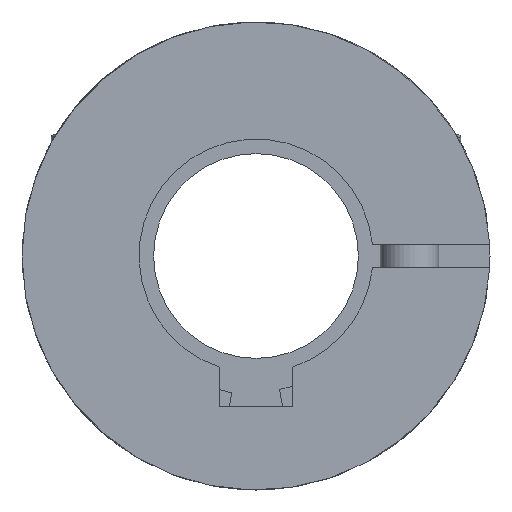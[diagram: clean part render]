
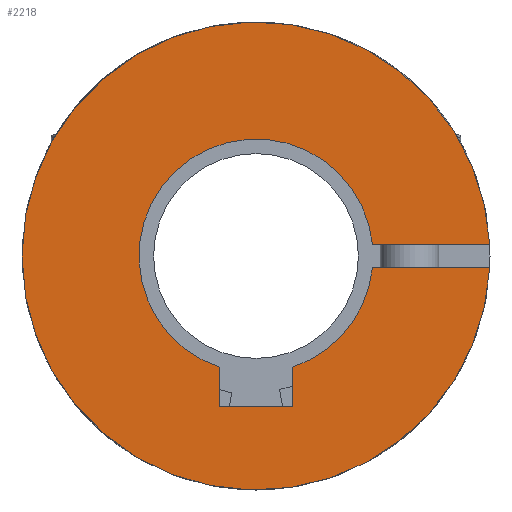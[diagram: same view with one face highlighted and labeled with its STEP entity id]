
A CAD part, left-side view. The second image highlights one B-rep face of the part: STEP entity #2218.
In plain terms, the highlighted planar face has unit normal (-1, 0, 0).
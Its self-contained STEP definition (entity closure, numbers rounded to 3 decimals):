
#58=PLANE('',#2457);
#164=FACE_OUTER_BOUND('',#288,.T.);
#288=EDGE_LOOP('',(#1608,#1609,#1610,#1611,#1612,#1613,#1614,#1615));
#420=LINE('',#3490,#629);
#423=LINE('',#3496,#632);
#424=LINE('',#3498,#633);
#428=LINE('',#3506,#637);
#442=LINE('',#3580,#651);
#629=VECTOR('',#2700,1.);
#632=VECTOR('',#2705,1.);
#633=VECTOR('',#2708,1.);
#637=VECTOR('',#2718,1000.);
#651=VECTOR('',#2800,1000.);
#821=CIRCLE('',#2402,16.);
#829=CIRCLE('',#2411,8.);
#833=CIRCLE('',#2417,8.);
#937=VERTEX_POINT('',#3343);
#938=VERTEX_POINT('',#3344);
#957=VERTEX_POINT('',#3460);
#958=VERTEX_POINT('',#3461);
#966=VERTEX_POINT('',#3479);
#968=VERTEX_POINT('',#3483);
#969=VERTEX_POINT('',#3488);
#971=VERTEX_POINT('',#3494);
#1165=EDGE_CURVE('',#937,#938,#821,.T.);
#1185=EDGE_CURVE('',#957,#958,#829,.T.);
#1196=EDGE_CURVE('',#966,#968,#833,.T.);
#1199=EDGE_CURVE('',#968,#969,#420,.T.);
#1202=EDGE_CURVE('',#969,#971,#423,.T.);
#1203=EDGE_CURVE('',#971,#957,#424,.T.);
#1208=EDGE_CURVE('',#966,#938,#428,.T.);
#1245=EDGE_CURVE('',#937,#958,#442,.T.);
#1608=ORIENTED_EDGE('',*,*,#1185,.T.);
#1609=ORIENTED_EDGE('',*,*,#1245,.F.);
#1610=ORIENTED_EDGE('',*,*,#1165,.T.);
#1611=ORIENTED_EDGE('',*,*,#1208,.F.);
#1612=ORIENTED_EDGE('',*,*,#1196,.T.);
#1613=ORIENTED_EDGE('',*,*,#1199,.T.);
#1614=ORIENTED_EDGE('',*,*,#1202,.T.);
#1615=ORIENTED_EDGE('',*,*,#1203,.T.);
#2218=ADVANCED_FACE('',(#164),#58,.F.);
#2402=AXIS2_PLACEMENT_3D('',#3345,#2649,#2650);
#2411=AXIS2_PLACEMENT_3D('',#3462,#2675,#2676);
#2417=AXIS2_PLACEMENT_3D('',#3485,#2694,#2695);
#2457=AXIS2_PLACEMENT_3D('',#3579,#2798,#2799);
#2649=DIRECTION('center_axis',(-1.,0.,0.));
#2650=DIRECTION('ref_axis',(0.,-1.,0.));
#2675=DIRECTION('center_axis',(1.,0.,0.));
#2676=DIRECTION('ref_axis',(0.,0.,-1.));
#2694=DIRECTION('center_axis',(1.,0.,0.));
#2695=DIRECTION('ref_axis',(0.,0.,-1.));
#2700=DIRECTION('',(0.,0.,-1.));
#2705=DIRECTION('',(0.,1.,0.));
#2708=DIRECTION('',(0.,0.,1.));
#2718=DIRECTION('',(0.,-1.,0.));
#2798=DIRECTION('center_axis',(1.,0.,0.));
#2799=DIRECTION('ref_axis',(0.,0.,1.));
#2800=DIRECTION('',(0.,1.,0.));
#3343=CARTESIAN_POINT('',(0.,-15.98,0.8));
#3344=CARTESIAN_POINT('',(0.,-15.98,-0.8));
#3345=CARTESIAN_POINT('Origin',(0.,0.,0.));
#3460=CARTESIAN_POINT('',(0.,2.5,-7.599));
#3461=CARTESIAN_POINT('',(0.,-7.96,0.8));
#3462=CARTESIAN_POINT('Origin',(0.,0.,0.));
#3479=CARTESIAN_POINT('',(0.,-7.96,-0.8));
#3483=CARTESIAN_POINT('',(0.,-2.5,-7.599));
#3485=CARTESIAN_POINT('Origin',(0.,0.,0.));
#3488=CARTESIAN_POINT('',(0.,-2.5,-10.3));
#3490=CARTESIAN_POINT('',(0.,-2.5,-2.575));
#3494=CARTESIAN_POINT('',(0.,2.5,-10.3));
#3496=CARTESIAN_POINT('',(0.,0.,-10.3));
#3498=CARTESIAN_POINT('',(0.,2.5,-2.575));
#3506=CARTESIAN_POINT('',(0.,0.,-0.8));
#3579=CARTESIAN_POINT('Origin',(0.,0.,0.));
#3580=CARTESIAN_POINT('',(0.,0.,0.8));
